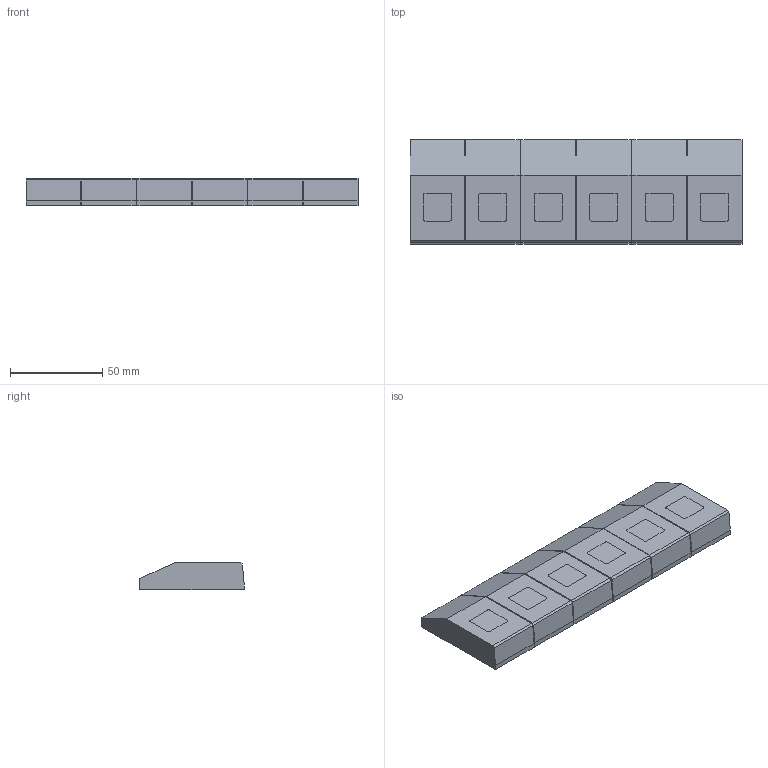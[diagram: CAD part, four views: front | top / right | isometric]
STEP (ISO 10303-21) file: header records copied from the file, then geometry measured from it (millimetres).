
FILE_DESCRIPTION(/* description */ (''),/* implementation_level */ '2;1');
FILE_NAME(/* name */ 'LA-3007-2226#-A.stp',/* time_stamp */ '2012-09-04T15:10:56+01:00',/* author */ (''),/* organization */ (''),/* preprocessor_version */ 'ST-DEVELOPER v11',/* originating_system */ 'SIEMENS PLM Software NX 7.5',/* authorisation */ '');
FILE_SCHEMA (('AUTOMOTIVE_DESIGN { 1 0 10303 214 1 1 1 1 }'));
Length unit declared in the file: millimetre
Products named in the file (1): rt133622tju1
Bounding box: 179.5 x 56.43 x 14.85 mm (x, y, z)
Volume: 132063.4 mm3; surface area: 32695.3 mm2
Topology: 6 solids, 6 shells, 60 faces, 174 edges, 132 vertices
Faces by surface type: plane 60
Entity records: 2497 total; most frequent: CARTESIAN_POINT 367, ORIENTED_EDGE 348, DIRECTION 320, EDGE_CURVE 174, LINE 150, VECTOR 150, VERTEX_POINT 132, AXIS2_PLACEMENT_3D 85
